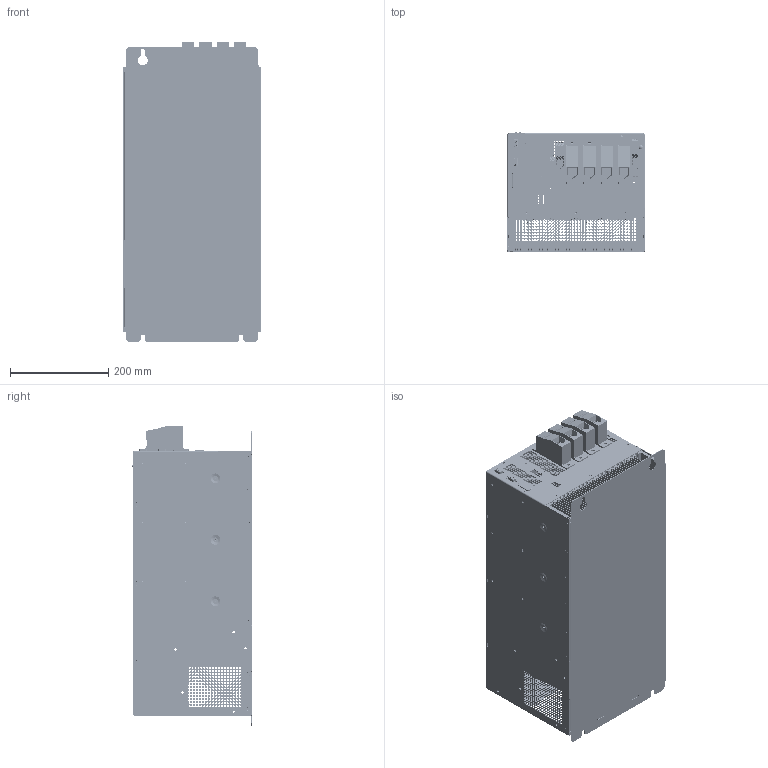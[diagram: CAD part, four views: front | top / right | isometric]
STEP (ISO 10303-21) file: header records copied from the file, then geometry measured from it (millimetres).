
FILE_DESCRIPTION(/* description */ (''),/* implementation_level */ '2;1');
FILE_NAME(/* name */ 'DNS506',/* time_stamp */ '2009-01-28T15:40:30+01:00',/* author */ (''),/* organization */ (''),/* preprocessor_version */ 'ST-DEVELOPER v9',/* originating_system */ 'UGS - NX 4.0',/* authorisation */ '');
FILE_SCHEMA (('AUTOMOTIVE_DESIGN { 1 0 10303 214 1 1 1 1 }'));
Products named in the file (1): sdum314C6b4w
Bounding box: 280 x 244.29 x 610 mm (x, y, z)
Volume: 5204734.8 mm3; surface area: 4428294.2 mm2
Topology: 90 solids, 90 shells, 12874 faces, 34671 edges, 22752 vertices
Faces by surface type: plane 7154, bspline 3834, cylinder 1552, cone 314, torus 18, sphere 2
Entity records: 509658 total; most frequent: CARTESIAN_POINT 146925, ORIENTED_EDGE 69094, DIRECTION 48095, EDGE_CURVE 34547, LINE 23169, VECTOR 23169, VERTEX_POINT 22752, EDGE_LOOP 17069
